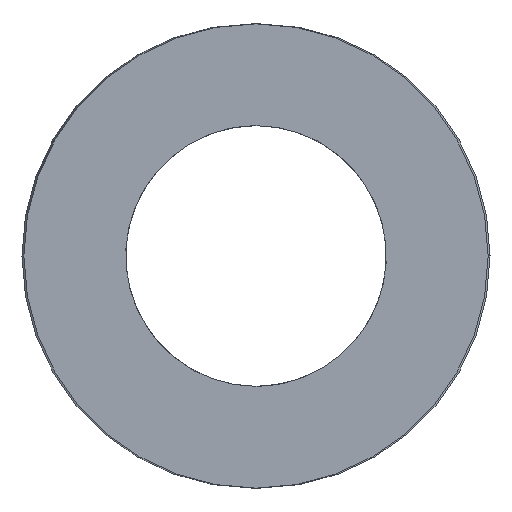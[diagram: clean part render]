
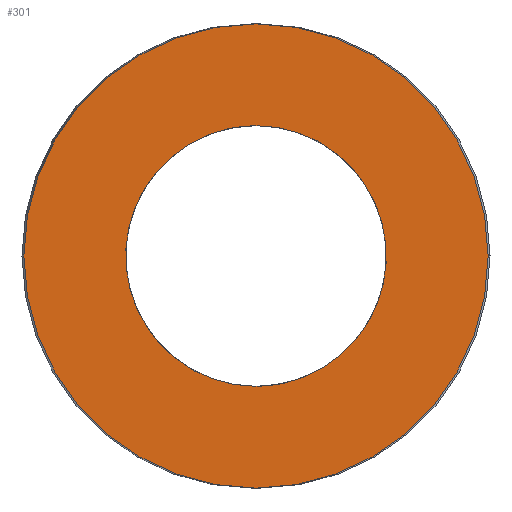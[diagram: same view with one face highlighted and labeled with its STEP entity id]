
A CAD part, left-side view. The second image highlights one B-rep face of the part: STEP entity #301.
In plain terms, the highlighted planar face has unit normal (-1, 0, 0).
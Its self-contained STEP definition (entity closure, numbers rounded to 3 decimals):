
#63=CARTESIAN_POINT('Vertex',(0.,15.5,0.)) ;
#77=CARTESIAN_POINT('Vertex',(0.,-15.5,0.)) ;
#80=CARTESIAN_POINT('Axis2P3D Location',(0.,0.,0.)) ;
#97=CARTESIAN_POINT('Axis2P3D Location',(0.,0.,0.)) ;
#232=CARTESIAN_POINT('Axis2P3D Location',(0.,7.75,0.)) ;
#242=CARTESIAN_POINT('Control Point',(0.,0.,-8.7)) ;
#243=CARTESIAN_POINT('Control Point',(0.,0.867,-8.7)) ;
#244=CARTESIAN_POINT('Control Point',(0.,1.734,-8.592)) ;
#245=CARTESIAN_POINT('Control Point',(0.,2.583,-8.376)) ;
#246=CARTESIAN_POINT('Control Point',(0.,4.209,-7.737)) ;
#247=CARTESIAN_POINT('Control Point',(0.,5.629,-6.719)) ;
#248=CARTESIAN_POINT('Control Point',(0.,6.272,-6.123)) ;
#249=CARTESIAN_POINT('Control Point',(0.,7.395,-4.785)) ;
#250=CARTESIAN_POINT('Control Point',(0.,8.156,-3.211)) ;
#251=CARTESIAN_POINT('Control Point',(0.,8.436,-2.381)) ;
#252=CARTESIAN_POINT('Control Point',(0.,8.783,-0.669)) ;
#253=CARTESIAN_POINT('Control Point',(0.,8.699,1.077)) ;
#254=CARTESIAN_POINT('Control Point',(0.,8.548,1.94)) ;
#255=CARTESIAN_POINT('Control Point',(0.,8.034,3.61)) ;
#256=CARTESIAN_POINT('Control Point',(0.,7.127,5.103)) ;
#257=CARTESIAN_POINT('Control Point',(0.,6.581,5.789)) ;
#258=CARTESIAN_POINT('Control Point',(0.,5.332,7.011)) ;
#259=CARTESIAN_POINT('Control Point',(0.,3.821,7.888)) ;
#260=CARTESIAN_POINT('Control Point',(0.,3.015,8.231)) ;
#261=CARTESIAN_POINT('Control Point',(0.,1.918,8.541)) ;
#262=CARTESIAN_POINT('Control Point',(0.,0.793,8.67)) ;
#263=CARTESIAN_POINT('Control Point',(0.,0.529,8.69)) ;
#264=CARTESIAN_POINT('Control Point',(0.,0.264,8.7)) ;
#265=CARTESIAN_POINT('Control Point',(0.,0.,8.7)) ;
#266=CARTESIAN_POINT('Vertex',(0.,0.,-8.7)) ;
#268=CARTESIAN_POINT('Vertex',(0.,0.,8.7)) ;
#272=CARTESIAN_POINT('Control Point',(0.,0.,8.7)) ;
#273=CARTESIAN_POINT('Control Point',(0.,-0.867,8.7)) ;
#274=CARTESIAN_POINT('Control Point',(0.,-1.734,8.592)) ;
#275=CARTESIAN_POINT('Control Point',(0.,-2.583,8.376)) ;
#276=CARTESIAN_POINT('Control Point',(0.,-4.209,7.737)) ;
#277=CARTESIAN_POINT('Control Point',(0.,-5.629,6.719)) ;
#278=CARTESIAN_POINT('Control Point',(0.,-6.272,6.123)) ;
#279=CARTESIAN_POINT('Control Point',(0.,-7.395,4.785)) ;
#280=CARTESIAN_POINT('Control Point',(0.,-8.156,3.211)) ;
#281=CARTESIAN_POINT('Control Point',(0.,-8.436,2.381)) ;
#282=CARTESIAN_POINT('Control Point',(0.,-8.783,0.669)) ;
#283=CARTESIAN_POINT('Control Point',(0.,-8.699,-1.077)) ;
#284=CARTESIAN_POINT('Control Point',(0.,-8.548,-1.94)) ;
#285=CARTESIAN_POINT('Control Point',(0.,-8.034,-3.61)) ;
#286=CARTESIAN_POINT('Control Point',(0.,-7.127,-5.103)) ;
#287=CARTESIAN_POINT('Control Point',(0.,-6.581,-5.789)) ;
#288=CARTESIAN_POINT('Control Point',(0.,-5.332,-7.011)) ;
#289=CARTESIAN_POINT('Control Point',(0.,-3.821,-7.888)) ;
#290=CARTESIAN_POINT('Control Point',(0.,-3.015,-8.231)) ;
#291=CARTESIAN_POINT('Control Point',(0.,-1.918,-8.541)) ;
#292=CARTESIAN_POINT('Control Point',(0.,-0.793,-8.67)) ;
#293=CARTESIAN_POINT('Control Point',(0.,-0.529,-8.69)) ;
#294=CARTESIAN_POINT('Control Point',(0.,-0.264,-8.7)) ;
#295=CARTESIAN_POINT('Control Point',(0.,0.,-8.7)) ;
#81=DIRECTION('Axis2P3D Direction',(1.,-0.,0.)) ;
#98=DIRECTION('Axis2P3D Direction',(1.,-0.,0.)) ;
#233=DIRECTION('Axis2P3D Direction',(-1.,0.,0.)) ;
#234=DIRECTION('Axis2P3D XDirection',(0.,1.,0.)) ;
#82=AXIS2_PLACEMENT_3D('Circle Axis2P3D',#80,#81,$) ;
#99=AXIS2_PLACEMENT_3D('Circle Axis2P3D',#97,#98,$) ;
#235=AXIS2_PLACEMENT_3D('Plane Axis2P3D',#232,#233,#234) ;
#238=ORIENTED_EDGE('',*,*,#84,.T.) ;
#239=ORIENTED_EDGE('',*,*,#101,.T.) ;
#298=ORIENTED_EDGE('',*,*,#270,.T.) ;
#299=ORIENTED_EDGE('',*,*,#296,.T.) ;
#300=FACE_BOUND('',#297,.T.) ;
#301=ADVANCED_FACE('392-B32-076',(#240,#300),#236,.T.) ;
#241=B_SPLINE_CURVE_WITH_KNOTS('',5,(#242,#243,#244,#245,#246,#247,#248,#249,#250,#251,#252,#253,#254,#255,#256,#257,#258,#259,#260,#261,#262,#263,#264,#265),.UNSPECIFIED.,.F.,.U.,(6,3,3,3,3,3,3,6),(0.,6.131,12.261,18.392,24.522,30.653,36.783,38.652),.UNSPECIFIED.) ;
#271=B_SPLINE_CURVE_WITH_KNOTS('',5,(#272,#273,#274,#275,#276,#277,#278,#279,#280,#281,#282,#283,#284,#285,#286,#287,#288,#289,#290,#291,#292,#293,#294,#295),.UNSPECIFIED.,.F.,.U.,(6,3,3,3,3,3,3,6),(0.,6.131,12.261,18.392,24.522,30.653,36.783,38.652),.UNSPECIFIED.) ;
#83=CIRCLE('generated circle',#82,15.5) ;
#100=CIRCLE('generated circle',#99,15.5) ;
#84=EDGE_CURVE('',#64,#78,#83,.F.) ;
#101=EDGE_CURVE('',#78,#64,#100,.F.) ;
#270=EDGE_CURVE('',#267,#269,#241,.T.) ;
#296=EDGE_CURVE('',#269,#267,#271,.T.) ;
#237=EDGE_LOOP('',(#238,#239)) ;
#297=EDGE_LOOP('',(#298,#299)) ;
#240=FACE_OUTER_BOUND('',#237,.T.) ;
#236=PLANE('Plane',#235) ;
#64=VERTEX_POINT('',#63) ;
#78=VERTEX_POINT('',#77) ;
#267=VERTEX_POINT('',#266) ;
#269=VERTEX_POINT('',#268) ;
